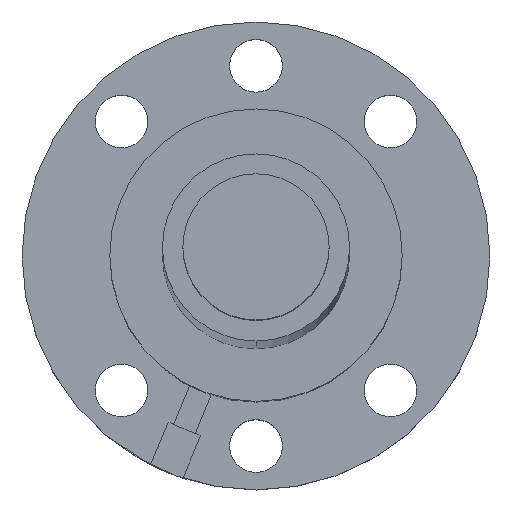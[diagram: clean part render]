
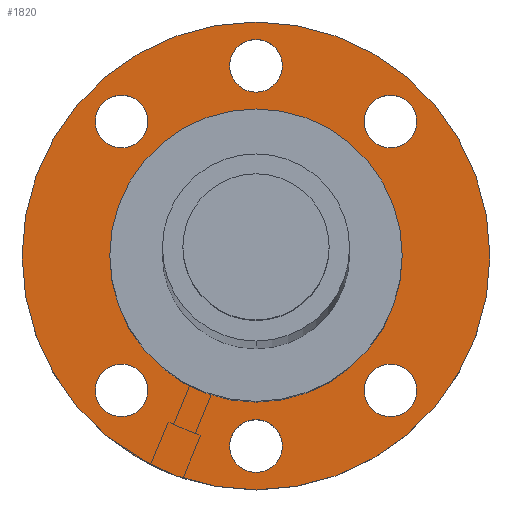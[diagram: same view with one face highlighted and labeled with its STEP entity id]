
A CAD part, top view. The second image highlights one B-rep face of the part: STEP entity #1820.
In plain terms, the highlighted planar face has unit normal (0, 0, 1).
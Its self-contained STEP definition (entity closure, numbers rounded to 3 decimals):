
#1315=CARTESIAN_POINT('',(0.,0.,12.));
#1316=DIRECTION('',(0.,0.,1.));
#1317=DIRECTION('',(1.,0.,0.));
#1318=AXIS2_PLACEMENT_3D('',#1315,#1316,#1317);
#1320=CARTESIAN_POINT('',(0.,0.,12.));
#1321=DIRECTION('',(0.,0.,1.));
#1322=DIRECTION('',(-1.,0.,0.));
#1323=AXIS2_PLACEMENT_3D('',#1320,#1321,#1322);
#1325=CARTESIAN_POINT('',(0.,0.,12.));
#1326=DIRECTION('',(0.,0.,-1.));
#1327=DIRECTION('',(1.,0.,0.));
#1328=AXIS2_PLACEMENT_3D('',#1325,#1326,#1327);
#1330=CARTESIAN_POINT('',(0.,0.,12.));
#1331=DIRECTION('',(0.,0.,-1.));
#1332=DIRECTION('',(-1.,0.,0.));
#1333=AXIS2_PLACEMENT_3D('',#1330,#1331,#1332);
#1335=CARTESIAN_POINT('',(0.,32.5,12.));
#1336=DIRECTION('',(0.,0.,-1.));
#1337=DIRECTION('',(1.,0.,0.));
#1338=AXIS2_PLACEMENT_3D('',#1335,#1336,#1337);
#1340=CARTESIAN_POINT('',(0.,32.5,12.));
#1341=DIRECTION('',(0.,0.,-1.));
#1342=DIRECTION('',(-1.,0.,0.));
#1343=AXIS2_PLACEMENT_3D('',#1340,#1341,#1342);
#1345=CARTESIAN_POINT('',(22.981,22.981,12.));
#1346=DIRECTION('',(0.,0.,-1.));
#1347=DIRECTION('',(-1.,0.,0.));
#1348=AXIS2_PLACEMENT_3D('',#1345,#1346,#1347);
#1350=CARTESIAN_POINT('',(22.981,22.981,12.));
#1351=DIRECTION('',(0.,0.,-1.));
#1352=DIRECTION('',(1.,0.,0.));
#1353=AXIS2_PLACEMENT_3D('',#1350,#1351,#1352);
#1355=CARTESIAN_POINT('',(-22.981,-22.981,12.));
#1356=DIRECTION('',(0.,0.,-1.));
#1357=DIRECTION('',(1.,0.,0.));
#1358=AXIS2_PLACEMENT_3D('',#1355,#1356,#1357);
#1360=CARTESIAN_POINT('',(-22.981,-22.981,12.));
#1361=DIRECTION('',(0.,0.,-1.));
#1362=DIRECTION('',(-1.,0.,0.));
#1363=AXIS2_PLACEMENT_3D('',#1360,#1361,#1362);
#1365=CARTESIAN_POINT('',(-22.981,22.981,12.));
#1366=DIRECTION('',(0.,0.,-1.));
#1367=DIRECTION('',(1.,0.,0.));
#1368=AXIS2_PLACEMENT_3D('',#1365,#1366,#1367);
#1370=CARTESIAN_POINT('',(-22.981,22.981,12.));
#1371=DIRECTION('',(0.,0.,-1.));
#1372=DIRECTION('',(-1.,0.,0.));
#1373=AXIS2_PLACEMENT_3D('',#1370,#1371,#1372);
#1375=CARTESIAN_POINT('',(22.981,-22.981,12.));
#1376=DIRECTION('',(0.,0.,-1.));
#1377=DIRECTION('',(-1.,0.,0.));
#1378=AXIS2_PLACEMENT_3D('',#1375,#1376,#1377);
#1380=CARTESIAN_POINT('',(22.981,-22.981,12.));
#1381=DIRECTION('',(0.,0.,-1.));
#1382=DIRECTION('',(1.,0.,0.));
#1383=AXIS2_PLACEMENT_3D('',#1380,#1381,#1382);
#1385=CARTESIAN_POINT('',(0.,-32.5,12.));
#1386=DIRECTION('',(0.,0.,-1.));
#1387=DIRECTION('',(1.,0.,0.));
#1388=AXIS2_PLACEMENT_3D('',#1385,#1386,#1387);
#1390=CARTESIAN_POINT('',(0.,-32.5,12.));
#1391=DIRECTION('',(0.,0.,-1.));
#1392=DIRECTION('',(-1.,0.,0.));
#1393=AXIS2_PLACEMENT_3D('',#1390,#1391,#1392);
#1565=CARTESIAN_POINT('',(40.,0.,12.));
#1567=VERTEX_POINT('',#1565);
#1569=CARTESIAN_POINT('',(-40.,0.,12.));
#1571=VERTEX_POINT('',#1569);
#1574=CARTESIAN_POINT('',(25.,0.,12.));
#1576=VERTEX_POINT('',#1574);
#1578=CARTESIAN_POINT('',(-25.,0.,12.));
#1580=VERTEX_POINT('',#1578);
#1589=CARTESIAN_POINT('',(27.481,-22.981,12.));
#1591=VERTEX_POINT('',#1589);
#1593=CARTESIAN_POINT('',(18.481,-22.981,12.));
#1595=VERTEX_POINT('',#1593);
#1597=CARTESIAN_POINT('',(-18.481,22.981,12.));
#1599=VERTEX_POINT('',#1597);
#1601=CARTESIAN_POINT('',(-27.481,22.981,12.));
#1603=VERTEX_POINT('',#1601);
#1605=CARTESIAN_POINT('',(-18.481,-22.981,12.));
#1607=VERTEX_POINT('',#1605);
#1609=CARTESIAN_POINT('',(-27.481,-22.981,12.));
#1611=VERTEX_POINT('',#1609);
#1613=CARTESIAN_POINT('',(27.481,22.981,12.));
#1615=VERTEX_POINT('',#1613);
#1617=CARTESIAN_POINT('',(18.481,22.981,12.));
#1619=VERTEX_POINT('',#1617);
#1621=CARTESIAN_POINT('',(4.5,32.5,12.));
#1623=VERTEX_POINT('',#1621);
#1625=CARTESIAN_POINT('',(-4.5,32.5,12.));
#1627=VERTEX_POINT('',#1625);
#1629=CARTESIAN_POINT('',(4.5,-32.5,12.));
#1631=VERTEX_POINT('',#1629);
#1633=CARTESIAN_POINT('',(-4.5,-32.5,12.));
#1635=VERTEX_POINT('',#1633);
#1769=CARTESIAN_POINT('',(0.,10.833,12.));
#1770=DIRECTION('',(0.,0.,1.));
#1771=DIRECTION('',(1.,0.,0.));
#1772=AXIS2_PLACEMENT_3D('',#1769,#1770,#1771);
#1773=PLANE('',#1772);
#1774=ORIENTED_EDGE('',*,*,#1662,.F.);
#1776=ORIENTED_EDGE('',*,*,#1775,.F.);
#1777=EDGE_LOOP('',(#1774,#1776));
#1778=FACE_OUTER_BOUND('',#1777,.F.);
#1780=ORIENTED_EDGE('',*,*,#1779,.F.);
#1781=ORIENTED_EDGE('',*,*,#1759,.F.);
#1782=EDGE_LOOP('',(#1780,#1781));
#1783=FACE_BOUND('',#1782,.F.);
#1785=ORIENTED_EDGE('',*,*,#1784,.F.);
#1787=ORIENTED_EDGE('',*,*,#1786,.F.);
#1788=EDGE_LOOP('',(#1785,#1787));
#1789=FACE_BOUND('',#1788,.F.);
#1791=ORIENTED_EDGE('',*,*,#1790,.F.);
#1793=ORIENTED_EDGE('',*,*,#1792,.F.);
#1794=EDGE_LOOP('',(#1791,#1793));
#1795=FACE_BOUND('',#1794,.F.);
#1797=ORIENTED_EDGE('',*,*,#1796,.F.);
#1799=ORIENTED_EDGE('',*,*,#1798,.F.);
#1800=EDGE_LOOP('',(#1797,#1799));
#1801=FACE_BOUND('',#1800,.F.);
#1803=ORIENTED_EDGE('',*,*,#1802,.F.);
#1805=ORIENTED_EDGE('',*,*,#1804,.F.);
#1806=EDGE_LOOP('',(#1803,#1805));
#1807=FACE_BOUND('',#1806,.F.);
#1809=ORIENTED_EDGE('',*,*,#1808,.F.);
#1811=ORIENTED_EDGE('',*,*,#1810,.F.);
#1812=EDGE_LOOP('',(#1809,#1811));
#1813=FACE_BOUND('',#1812,.F.);
#1815=ORIENTED_EDGE('',*,*,#1814,.F.);
#1817=ORIENTED_EDGE('',*,*,#1816,.F.);
#1818=EDGE_LOOP('',(#1815,#1817));
#1819=FACE_BOUND('',#1818,.F.);
#1820=ADVANCED_FACE('',(#1778,#1783,#1789,#1795,#1801,#1807,#1813,#1819),#1773,
.T.);
#1319=CIRCLE('',#1318,40.);
#1324=CIRCLE('',#1323,40.);
#1329=CIRCLE('',#1328,25.);
#1334=CIRCLE('',#1333,25.);
#1339=CIRCLE('',#1338,4.5);
#1344=CIRCLE('',#1343,4.5);
#1349=CIRCLE('',#1348,4.5);
#1354=CIRCLE('',#1353,4.5);
#1359=CIRCLE('',#1358,4.5);
#1364=CIRCLE('',#1363,4.5);
#1369=CIRCLE('',#1368,4.5);
#1374=CIRCLE('',#1373,4.5);
#1379=CIRCLE('',#1378,4.5);
#1384=CIRCLE('',#1383,4.5);
#1389=CIRCLE('',#1388,4.5);
#1394=CIRCLE('',#1393,4.5);
#1662=EDGE_CURVE('',#1567,#1571,#1319,.T.);
#1759=EDGE_CURVE('',#1580,#1576,#1334,.T.);
#1775=EDGE_CURVE('',#1571,#1567,#1324,.T.);
#1779=EDGE_CURVE('',#1576,#1580,#1329,.T.);
#1784=EDGE_CURVE('',#1623,#1627,#1339,.T.);
#1786=EDGE_CURVE('',#1627,#1623,#1344,.T.);
#1790=EDGE_CURVE('',#1619,#1615,#1349,.T.);
#1792=EDGE_CURVE('',#1615,#1619,#1354,.T.);
#1796=EDGE_CURVE('',#1607,#1611,#1359,.T.);
#1798=EDGE_CURVE('',#1611,#1607,#1364,.T.);
#1802=EDGE_CURVE('',#1599,#1603,#1369,.T.);
#1804=EDGE_CURVE('',#1603,#1599,#1374,.T.);
#1808=EDGE_CURVE('',#1595,#1591,#1379,.T.);
#1810=EDGE_CURVE('',#1591,#1595,#1384,.T.);
#1814=EDGE_CURVE('',#1631,#1635,#1389,.T.);
#1816=EDGE_CURVE('',#1635,#1631,#1394,.T.);
